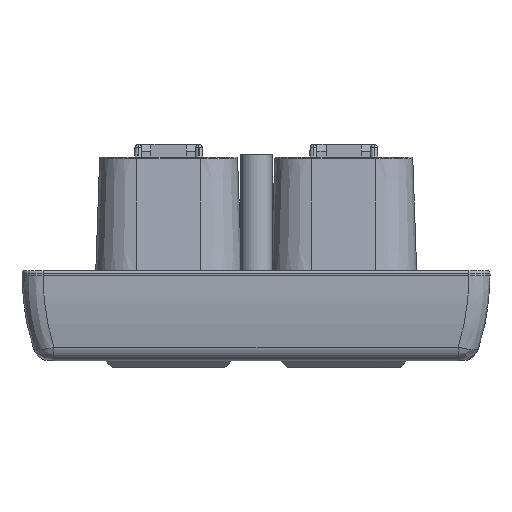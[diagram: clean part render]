
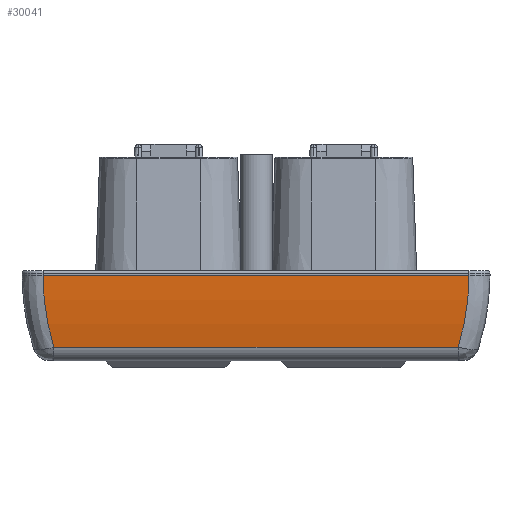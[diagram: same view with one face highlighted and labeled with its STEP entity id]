
A CAD part, left-side view. The second image highlights one B-rep face of the part: STEP entity #30041.
In plain terms, the highlighted cylindrical face has radius 59.055 mm (diameter 118.11 mm), a partial arc.
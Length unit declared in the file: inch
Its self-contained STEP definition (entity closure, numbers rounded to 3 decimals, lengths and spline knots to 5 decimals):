
#4292 = CARTESIAN_POINT ( 'NONE',  ( 2.325, 1.1825, 0. ) ) ;
#4295 = CARTESIAN_POINT ( 'NONE',  ( 2.325, -1.3525, 0. ) ) ;
#4535 = DIRECTION ( 'NONE',  ( 0., 1., 0. ) ) ;
#4536 = VECTOR ( 'NONE', #4535, 39.37008 ) ;
#4537 = CARTESIAN_POINT ( 'NONE',  ( 2.325, 1.3075, 0. ) ) ;
#4594 = LINE ( 'NONE', #4537, #4536 ) ;
#7730 = B_SPLINE_CURVE_WITH_KNOTS ( 'NONE', 3,
 ( #7736, #7735, #7734, #7733, #7732, #7731, #7819, #7818 ),
 .UNSPECIFIED., .F., .F.,
 ( 4, 2, 2, 4 ),
 ( 0.00223, 0.00498, 0.00772, 0.01321 ),
 .UNSPECIFIED. ) ;
#7731 = CARTESIAN_POINT ( 'NONE',  ( 2.32162, -1.34697, 0.14435 ) ) ;
#7732 = CARTESIAN_POINT ( 'NONE',  ( 2.31167, -1.33048, 0.25121 ) ) ;
#7733 = CARTESIAN_POINT ( 'NONE',  ( 2.30754, -1.32362, 0.28655 ) ) ;
#7734 = CARTESIAN_POINT ( 'NONE',  ( 2.29784, -1.30736, 0.3561 ) ) ;
#7735 = CARTESIAN_POINT ( 'NONE',  ( 2.29225, -1.29794, 0.3904 ) ) ;
#7736 = CARTESIAN_POINT ( 'NONE',  ( 2.28597, -1.28725, 0.42425 ) ) ;
#7753 = LINE ( 'NONE', #7911, #7842 ) ;
#7764 = CARTESIAN_POINT ( 'NONE',  ( 2.28597, 1.11725, 0.42425 ) ) ;
#7775 = B_SPLINE_CURVE_WITH_KNOTS ( 'NONE', 3,
 ( #7902, #7900, #7899, #7897, #7896, #7894, #7892, #7764 ),
 .UNSPECIFIED., .F., .F.,
 ( 4, 2, 2, 4 ),
 ( 0., 0.0055, 0.00825, 0.011 ),
 .UNSPECIFIED. ) ;
#7818 = CARTESIAN_POINT ( 'NONE',  ( 2.325, -1.3525, 0. ) ) ;
#7819 = CARTESIAN_POINT ( 'NONE',  ( 2.325, -1.3525, 0.07249 ) ) ;
#7841 = DIRECTION ( 'NONE',  ( 0., -1., 0. ) ) ;
#7842 = VECTOR ( 'NONE', #7841, 39.37008 ) ;
#7847 = AXIS2_PLACEMENT_3D ( 'NONE', #7854, #7861, #7860 ) ;
#7848 = FACE_OUTER_BOUND ( 'NONE', #30010, .T. ) ;
#7854 = CARTESIAN_POINT ( 'NONE',  ( 0., 2.5, 0. ) ) ;
#7858 = CARTESIAN_POINT ( 'NONE',  ( 2.28597, 1.11725, 0.42425 ) ) ;
#7860 = DIRECTION ( 'NONE',  ( 0., 0., -1. ) ) ;
#7861 = DIRECTION ( 'NONE',  ( 0., -1., 0. ) ) ;
#7868 = CYLINDRICAL_SURFACE ( 'NONE', #7847, 2.325 ) ;
#7892 = CARTESIAN_POINT ( 'NONE',  ( 2.29225, 1.12794, 0.3904 ) ) ;
#7894 = CARTESIAN_POINT ( 'NONE',  ( 2.29784, 1.13736, 0.3561 ) ) ;
#7896 = CARTESIAN_POINT ( 'NONE',  ( 2.30754, 1.15362, 0.28654 ) ) ;
#7897 = CARTESIAN_POINT ( 'NONE',  ( 2.31167, 1.16048, 0.2512 ) ) ;
#7899 = CARTESIAN_POINT ( 'NONE',  ( 2.32162, 1.17697, 0.14435 ) ) ;
#7900 = CARTESIAN_POINT ( 'NONE',  ( 2.325, 1.1825, 0.07249 ) ) ;
#7902 = CARTESIAN_POINT ( 'NONE',  ( 2.325, 1.1825, 0. ) ) ;
#7911 = CARTESIAN_POINT ( 'NONE',  ( 2.28597, 2.5, 0.42425 ) ) ;
#8093 = CARTESIAN_POINT ( 'NONE',  ( 2.28597, -1.28725, 0.42425 ) ) ;
#28256 = VERTEX_POINT ( 'NONE', #4295 ) ;
#28257 = VERTEX_POINT ( 'NONE', #4292 ) ;
#28417 = EDGE_CURVE ( 'NONE', #28256, #28257, #4594, .T. ) ;
#29957 = ORIENTED_EDGE ( 'NONE', *, *, #30081, .T. ) ;
#29960 = ORIENTED_EDGE ( 'NONE', *, *, #30093, .T. ) ;
#30010 = EDGE_LOOP ( 'NONE', ( #30030, #29957, #29960, #30066 ) ) ;
#30030 = ORIENTED_EDGE ( 'NONE', *, *, #30070, .T. ) ;
#30041 = ADVANCED_FACE ( 'NONE', ( #7848 ), #7868, .T. ) ;
#30048 = VERTEX_POINT ( 'NONE', #7858 ) ;
#30066 = ORIENTED_EDGE ( 'NONE', *, *, #28417, .T. ) ;
#30070 = EDGE_CURVE ( 'NONE', #28257, #30048, #7775, .T. ) ;
#30081 = EDGE_CURVE ( 'NONE', #30048, #30102, #7753, .T. ) ;
#30093 = EDGE_CURVE ( 'NONE', #30102, #28256, #7730, .T. ) ;
#30102 = VERTEX_POINT ( 'NONE', #8093 ) ;
